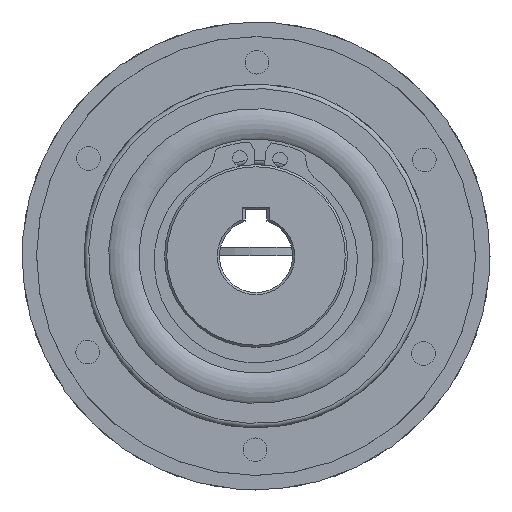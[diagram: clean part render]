
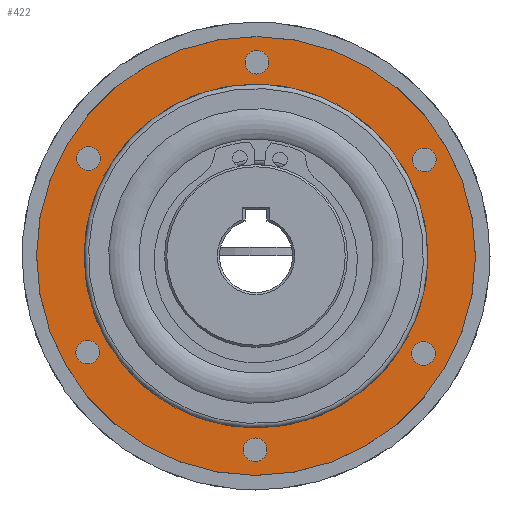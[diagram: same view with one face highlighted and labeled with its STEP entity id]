
A CAD part, left-side view. The second image highlights one B-rep face of the part: STEP entity #422.
In plain terms, the highlighted planar face has unit normal (-1, 0, 0).
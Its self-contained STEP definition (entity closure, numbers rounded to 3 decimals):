
#422 = ADVANCED_FACE( '', ( #696, #697, #698, #699, #700, #701, #702, #703 ), #704, .F. );
#696 = FACE_OUTER_BOUND( '', #961, .T. );
#697 = FACE_BOUND( '', #962, .T. );
#698 = FACE_BOUND( '', #963, .T. );
#699 = FACE_BOUND( '', #964, .T. );
#700 = FACE_BOUND( '', #965, .T. );
#701 = FACE_BOUND( '', #966, .T. );
#702 = FACE_BOUND( '', #967, .T. );
#703 = FACE_BOUND( '', #968, .T. );
#704 = PLANE( '', #969 );
#961 = EDGE_LOOP( '', ( #1493 ) );
#962 = EDGE_LOOP( '', ( #1494 ) );
#963 = EDGE_LOOP( '', ( #1495 ) );
#964 = EDGE_LOOP( '', ( #1496 ) );
#965 = EDGE_LOOP( '', ( #1497 ) );
#966 = EDGE_LOOP( '', ( #1498 ) );
#967 = EDGE_LOOP( '', ( #1499 ) );
#968 = EDGE_LOOP( '', ( #1500 ) );
#969 = AXIS2_PLACEMENT_3D( '', #1501, #1502, #1503 );
#1493 = ORIENTED_EDGE( '', *, *, #2009, .T. );
#1494 = ORIENTED_EDGE( '', *, *, #2010, .T. );
#1495 = ORIENTED_EDGE( '', *, *, #2007, .T. );
#1496 = ORIENTED_EDGE( '', *, *, #2004, .T. );
#1497 = ORIENTED_EDGE( '', *, *, #2006, .T. );
#1498 = ORIENTED_EDGE( '', *, *, #2011, .T. );
#1499 = ORIENTED_EDGE( '', *, *, #2012, .T. );
#1500 = ORIENTED_EDGE( '', *, *, #2013, .F. );
#1501 = CARTESIAN_POINT( '', ( -11.15, 30., 0. ) );
#1502 = DIRECTION( '', ( 1., 0., 0. ) );
#1503 = DIRECTION( '', ( 0., 1., 0. ) );
#2004 = EDGE_CURVE( '', #2235, #2235, #2236, .T. );
#2006 = EDGE_CURVE( '', #2239, #2239, #2240, .T. );
#2007 = EDGE_CURVE( '', #2241, #2241, #2242, .T. );
#2009 = EDGE_CURVE( '', #2245, #2245, #2246, .T. );
#2010 = EDGE_CURVE( '', #2247, #2247, #2248, .T. );
#2011 = EDGE_CURVE( '', #2249, #2249, #2250, .T. );
#2012 = EDGE_CURVE( '', #2251, #2251, #2252, .T. );
#2013 = EDGE_CURVE( '', #2253, #2253, #2254, .T. );
#2235 = VERTEX_POINT( '', #2507 );
#2236 = CIRCLE( '', #2508, 1.621 );
#2239 = VERTEX_POINT( '', #2511 );
#2240 = CIRCLE( '', #2512, 1.621 );
#2241 = VERTEX_POINT( '', #2513 );
#2242 = CIRCLE( '', #2514, 1.621 );
#2245 = VERTEX_POINT( '', #2517 );
#2246 = CIRCLE( '', #2518, 30. );
#2247 = VERTEX_POINT( '', #2519 );
#2248 = CIRCLE( '', #2520, 1.621 );
#2249 = VERTEX_POINT( '', #2521 );
#2250 = CIRCLE( '', #2522, 1.621 );
#2251 = VERTEX_POINT( '', #2523 );
#2252 = CIRCLE( '', #2524, 1.621 );
#2253 = VERTEX_POINT( '', #2525 );
#2254 = CIRCLE( '', #2526, 23.5 );
#2507 = CARTESIAN_POINT( '', ( -11.15, 0., -28.121 ) );
#2508 = AXIS2_PLACEMENT_3D( '', #2795, #2796, #2797 );
#2511 = CARTESIAN_POINT( '', ( -11.15, -24.354, -14.061 ) );
#2512 = AXIS2_PLACEMENT_3D( '', #2801, #2802, #2803 );
#2513 = CARTESIAN_POINT( '', ( -11.15, 24.354, -14.061 ) );
#2514 = AXIS2_PLACEMENT_3D( '', #2804, #2805, #2806 );
#2517 = CARTESIAN_POINT( '', ( -11.15, 0., 30. ) );
#2518 = AXIS2_PLACEMENT_3D( '', #2810, #2811, #2812 );
#2519 = CARTESIAN_POINT( '', ( -11.15, 24.354, 14.061 ) );
#2520 = AXIS2_PLACEMENT_3D( '', #2813, #2814, #2815 );
#2521 = CARTESIAN_POINT( '', ( -11.15, -24.354, 14.061 ) );
#2522 = AXIS2_PLACEMENT_3D( '', #2816, #2817, #2818 );
#2523 = CARTESIAN_POINT( '', ( -11.15, 0., 28.121 ) );
#2524 = AXIS2_PLACEMENT_3D( '', #2819, #2820, #2821 );
#2525 = CARTESIAN_POINT( '', ( -11.15, 0., 23.5 ) );
#2526 = AXIS2_PLACEMENT_3D( '', #2822, #2823, #2824 );
#2795 = CARTESIAN_POINT( '', ( -11.15, 0., -26.5 ) );
#2796 = DIRECTION( '', ( 1., 0., 0. ) );
#2797 = DIRECTION( '', ( 0., 0., -1. ) );
#2801 = CARTESIAN_POINT( '', ( -11.15, -22.95, -13.25 ) );
#2802 = DIRECTION( '', ( 1., 0., 0. ) );
#2803 = DIRECTION( '', ( 0., -0.866, -0.5 ) );
#2804 = CARTESIAN_POINT( '', ( -11.15, 22.95, -13.25 ) );
#2805 = DIRECTION( '', ( 1., 0., 0. ) );
#2806 = DIRECTION( '', ( 0., 0.866, -0.5 ) );
#2810 = CARTESIAN_POINT( '', ( -11.15, 0., 0. ) );
#2811 = DIRECTION( '', ( -1., 0., 0. ) );
#2812 = DIRECTION( '', ( 0., 0., 1. ) );
#2813 = CARTESIAN_POINT( '', ( -11.15, 22.95, 13.25 ) );
#2814 = DIRECTION( '', ( 1., 0., 0. ) );
#2815 = DIRECTION( '', ( 0., 0.866, 0.5 ) );
#2816 = CARTESIAN_POINT( '', ( -11.15, -22.95, 13.25 ) );
#2817 = DIRECTION( '', ( 1., 0., 0. ) );
#2818 = DIRECTION( '', ( 0., -0.866, 0.5 ) );
#2819 = CARTESIAN_POINT( '', ( -11.15, 0., 26.5 ) );
#2820 = DIRECTION( '', ( 1., 0., 0. ) );
#2821 = DIRECTION( '', ( 0., 0., 1. ) );
#2822 = CARTESIAN_POINT( '', ( -11.15, 0., 0. ) );
#2823 = DIRECTION( '', ( -1., 0., 0. ) );
#2824 = DIRECTION( '', ( 0., 0., 1. ) );
